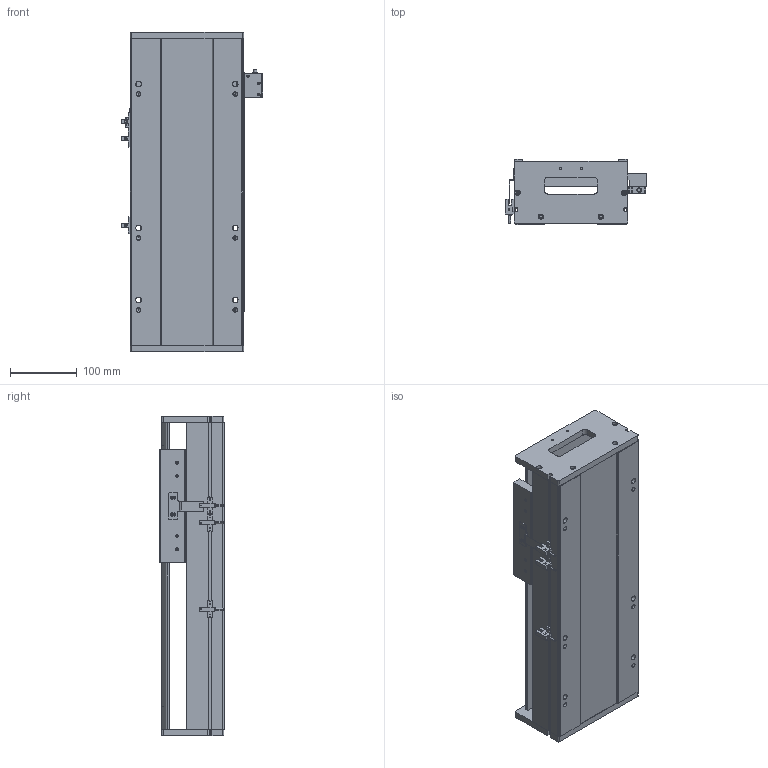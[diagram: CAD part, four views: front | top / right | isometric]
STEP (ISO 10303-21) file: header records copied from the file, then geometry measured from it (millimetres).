
FILE_DESCRIPTION (( 'STEP AP203' ), '1' );
FILE_NAME ('SKR17S-C1-S210（简）.STEP', '2022-09-29T02:20:45', ( '' ), ( '' ), 'SwSTEP 2.0', 'SolidWorks 2018', '' );
FILE_SCHEMA (( 'CONFIG_CONTROL_DESIGN' ));
Length unit declared in the file: millimetre
Products named in the file (8): 感应片（SKR12S-14S-17S）; SKR17S-C1-S210（简）; SIKO棠掑; SKR17菁釱-C1-S210(潠); SKR17耜啣; EE-SX672; 棠掑假蚾輸; SKR17滑台-170L（简）
Assembly tree (10 placements, depth 2):
  SKR17S-C1-S210（简）
    SKR17菁釱-C1-S210(潠)
    SKR17滑台-170L（简）
    SIKO棠掑
    EE-SX672  x3
    SKR17耜啣  x2
    棠掑假蚾輸
    感应片（SKR12S-14S-17S）
Bounding box: 212.7 x 97 x 480 mm (x, y, z)
Volume: 4212853 mm3; surface area: 596206.1 mm2
Topology: 11 solids, 11 shells, 945 faces, 2589 edges, 1668 vertices
Faces by surface type: plane 425, cylinder 416, cone 104
Entity records: 27270 total; most frequent: CARTESIAN_POINT 6473, ORIENTED_EDGE 4230, DIRECTION 4108, EDGE_CURVE 2115, AXIS2_PLACEMENT_3D 1455, VERTEX_POINT 1372, LINE 1198, VECTOR 1198
